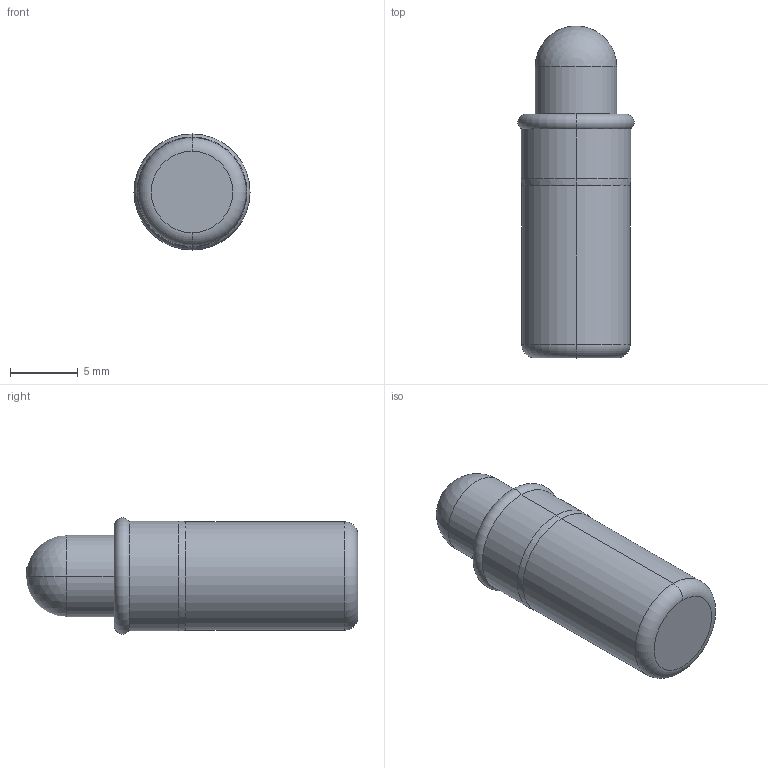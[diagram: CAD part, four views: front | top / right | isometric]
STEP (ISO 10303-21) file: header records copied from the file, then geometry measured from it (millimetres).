
FILE_DESCRIPTION (( 'STEP AP203' ), '1' );
FILE_NAME ('013.100.025.STEP', '2020-11-02T09:22:53', ( '' ), ( '' ), 'SwSTEP 2.0', 'SolidWorks 2018', '' );
FILE_SCHEMA (( 'CONFIG_CONTROL_DESIGN' ));
Length unit declared in the file: millimetre
Products named in the file (1): 013.100.025
Bounding box: 8.56 x 24.5 x 8.56 mm (x, y, z)
Volume: 1065.4 mm3; surface area: 697.6 mm2
Topology: 2 solids, 2 shells, 17 faces, 34 edges, 19 vertices
Faces by surface type: torus 6, cylinder 6, plane 3, sphere 2
Entity records: 491 total; most frequent: DIRECTION 90, CARTESIAN_POINT 65, ORIENTED_EDGE 60, AXIS2_PLACEMENT_3D 42, EDGE_CURVE 30, CIRCLE 24, VERTEX_POINT 17, FACE_OUTER_BOUND 17
